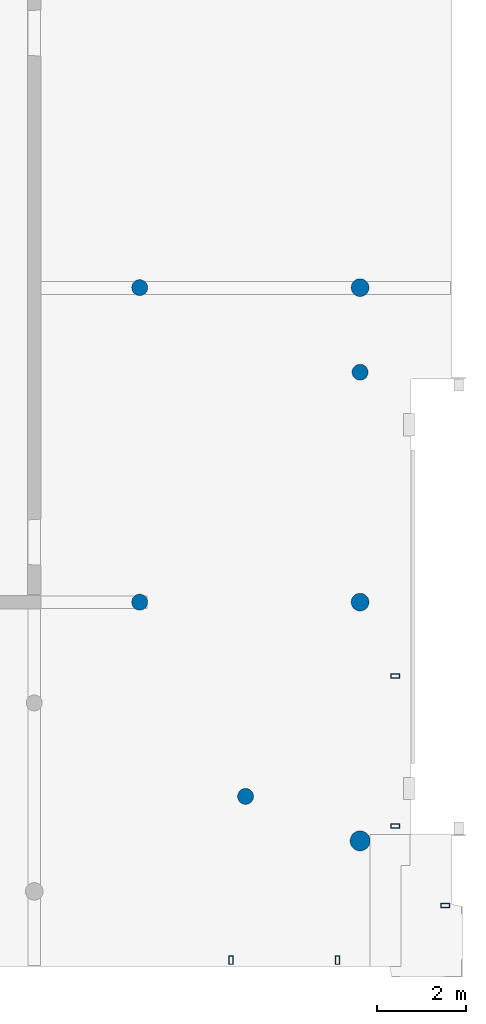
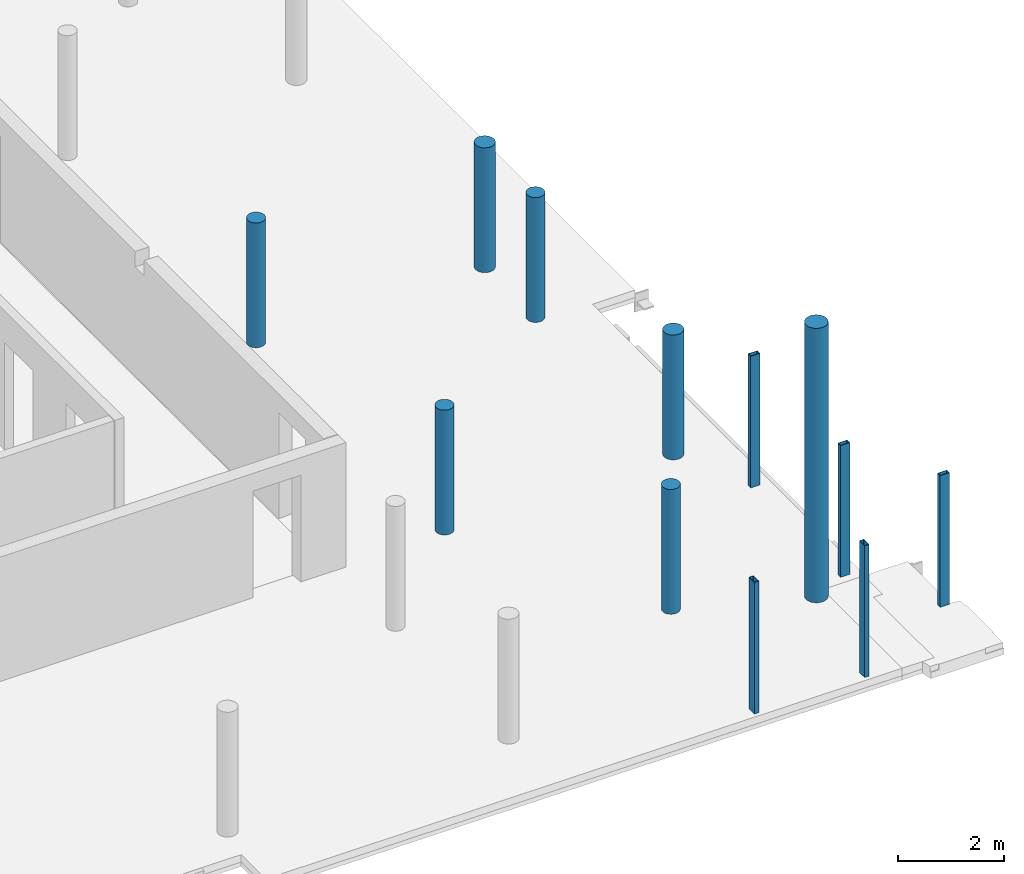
# One storey, part 2 of 7: 12 columns.
"""IFC2X3 building model written with IfcOpenShell, lengths in millimetres."""

from ifc_helpers import new_model, entity, si_unit, converted_unit, derived_unit, direction, frame, frame_2d, origin, origin_2d_with_axis, place, context, subcontext, project, spatial, polyline, circle_curve, parameter, trimmed, segment, composite_curve, circle, outline, extrude, source, transform, mapped, material, type_object, type_shapes, element, save


model = new_model("IFC2X3")

# Units and contexts
model_context = context("Model", 3, precision=0.01, world=origin(), true_north=direction((6.12303176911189e-17, 1.0)))
body_context = subcontext(model_context, "Body", "Model", "MODEL_VIEW")
ifc_project = project(units=[si_unit("LENGTHUNIT", "METRE", prefix="MILLI"), si_unit("AREAUNIT", "SQUARE_METRE"), si_unit("VOLUMEUNIT", "CUBIC_METRE"), converted_unit("PLANEANGLEUNIT", "DEGREE", entity("IfcRatioMeasure", 0.0174532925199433), si_unit("PLANEANGLEUNIT", "RADIAN"), dimensions=[0, 0, 0, 0, 0, 0, 0]), si_unit("MASSUNIT", "GRAM", prefix="KILO"), derived_unit("MASSDENSITYUNIT", [(si_unit("MASSUNIT", "GRAM", prefix="KILO"), 1), (si_unit("LENGTHUNIT", "METRE"), -3)]), si_unit("TIMEUNIT", "SECOND"), si_unit("FREQUENCYUNIT", "HERTZ"), si_unit("THERMODYNAMICTEMPERATUREUNIT", "DEGREE_CELSIUS"), derived_unit("THERMALTRANSMITTANCEUNIT", [(si_unit("MASSUNIT", "GRAM", prefix="KILO"), 1), (si_unit("THERMODYNAMICTEMPERATUREUNIT", "KELVIN"), -1), (si_unit("TIMEUNIT", "SECOND"), -3)]), derived_unit("VOLUMETRICFLOWRATEUNIT", [(si_unit("LENGTHUNIT", "METRE"), 3), (si_unit("TIMEUNIT", "SECOND"), -1)]), si_unit("ELECTRICCURRENTUNIT", "AMPERE"), si_unit("ELECTRICVOLTAGEUNIT", "VOLT"), si_unit("POWERUNIT", "WATT"), si_unit("FORCEUNIT", "NEWTON", prefix="KILO"), si_unit("ILLUMINANCEUNIT", "LUX"), si_unit("LUMINOUSFLUXUNIT", "LUMEN"), si_unit("LUMINOUSINTENSITYUNIT", "CANDELA"), derived_unit("USERDEFINED", [(si_unit("MASSUNIT", "GRAM", prefix="KILO"), -1), (si_unit("LENGTHUNIT", "METRE"), -2), (si_unit("TIMEUNIT", "SECOND"), 3), (si_unit("LUMINOUSFLUXUNIT", "LUMEN"), 1)]), derived_unit("LINEARVELOCITYUNIT", [(si_unit("LENGTHUNIT", "METRE"), 1), (si_unit("TIMEUNIT", "SECOND"), -1)]), si_unit("PRESSUREUNIT", "PASCAL"), derived_unit("USERDEFINED", [(si_unit("LENGTHUNIT", "METRE"), -2), (si_unit("MASSUNIT", "GRAM", prefix="KILO"), 1), (si_unit("TIMEUNIT", "SECOND"), -2)])], contexts=[model_context])

# Site, building, storey
site_placement = place(None, origin())
site = spatial("IfcSite", under=ifc_project, at=site_placement, Name="Default", CompositionType="ELEMENT")
building_placement = place(site_placement, origin())
building = spatial("IfcBuilding", under=site, at=building_placement, Name="niet gebruiken", CompositionType="ELEMENT")
storey_placement = place(building_placement, frame((0.0, 0.0, 165060.0)))
storey = spatial("IfcBuildingStorey", under=building, at=storey_placement, Name="53 drieënvijftigste verdieping", CompositionType="ELEMENT", Elevation=165060.0)

# Columns
ifc_material_1 = material(Name="NLRS_f2_beton prefab")
column_type_1 = type_object("IfcColumnType", Name="ø360", PredefinedType="COLUMN", material=ifc_material_1)
shared_shape_1 = source(origin(), body_context, "Body", "SweptSolid", [
    extrude(circle(Radius=180.0, at=origin_2d_with_axis()), frame((150030.0, 17500.0, 164990.0), z_axis=(0.0, 0.0, 1.0), x_axis=(0.0, -1.0, 0.0)), (0.0, 0.0, 1.0), 2869.99999999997),
])
type_shapes(column_type_1, [shared_shape_1])
column_1_placement = place(storey_placement, frame((0.0, 0.0, -165060.0)))
element("IfcColumn", 1, at=column_1_placement, inside=storey, type_object=column_type_1, material=ifc_material_1, Name="NLRS_28. kolom rond_gen:ø360", ObjectType="ø360", context=body_context, shape_type="MappedRepresentation", body=[
    mapped(shared_shape_1, transform((0.0, 0.0, 0.0), scale=1.0)),
])
column_type_2 = type_object("IfcColumnType", Name="ø400", PredefinedType="COLUMN", material=ifc_material_1)
shared_shape_2 = source(origin(), body_context, "Body", "SweptSolid", [
    extrude(circle(Radius=199.999999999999, at=origin_2d_with_axis()), frame((155005.0, 17500.0, 164990.0), z_axis=(0.0, 0.0, 1.0), x_axis=(0.0, -1.0, 0.0)), (0.0, 0.0, 1.0), 2869.99999999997),
])
type_shapes(column_type_2, [shared_shape_2])
column_2_placement = place(storey_placement, frame((0.0, 0.0, -165060.0)))
element("IfcColumn", 2, at=column_2_placement, inside=storey, type_object=column_type_2, material=ifc_material_1, Name="NLRS_28. kolom rond_gen:ø400", ObjectType="ø400", context=body_context, shape_type="MappedRepresentation", body=[
    mapped(shared_shape_2, transform((0.0, 0.0, 0.0), scale=1.0)),
])
column_type_3 = type_object("IfcColumnType", Name="ø360", PredefinedType="COLUMN", material=ifc_material_1)
shared_shape_3 = source(origin(), body_context, "Body", "SweptSolid", [
    extrude(circle(Radius=180.0, at=origin_2d_with_axis()), frame((155005.0, 15590.0, 164990.0), z_axis=(0.0, 0.0, 1.0), x_axis=(0.0, -1.0, 0.0)), (0.0, 0.0, 1.0), 2869.99999999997),
])
type_shapes(column_type_3, [shared_shape_3])
column_3_placement = place(storey_placement, frame((0.0, 0.0, -165060.0)))
element("IfcColumn", 3, at=column_3_placement, inside=storey, type_object=column_type_3, material=ifc_material_1, Name="NLRS_28. kolom rond_gen:ø360", ObjectType="ø360", context=body_context, shape_type="MappedRepresentation", body=[
    mapped(shared_shape_3, transform((0.0, 0.0, 0.0), scale=1.0)),
])
column_type_4 = type_object("IfcColumnType", Name="ø400", PredefinedType="COLUMN", material=ifc_material_1)
shared_shape_4 = source(origin(), body_context, "Body", "SweptSolid", [
    extrude(circle(Radius=199.999999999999, at=origin_2d_with_axis()), frame((155005.0, 10400.0, 164990.0), z_axis=(0.0, 0.0, 1.0), x_axis=(0.0, -1.0, 0.0)), (0.0, 0.0, 1.0), 2869.99999999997),
])
type_shapes(column_type_4, [shared_shape_4])
column_4_placement = place(storey_placement, frame((0.0, 0.0, -165060.0)))
element("IfcColumn", 4, at=column_4_placement, inside=storey, type_object=column_type_4, material=ifc_material_1, Name="NLRS_28. kolom rond_gen:ø400", ObjectType="ø400", context=body_context, shape_type="MappedRepresentation", body=[
    mapped(shared_shape_4, transform((0.0, 0.0, 0.0), scale=1.0)),
])
column_type_5 = type_object("IfcColumnType", Name="ø360", PredefinedType="COLUMN", material=ifc_material_1)
shared_shape_5 = source(origin(), body_context, "Body", "SweptSolid", [
    extrude(circle(Radius=180.0, at=origin_2d_with_axis()), frame((150030.0, 10400.0, 164990.0), z_axis=(0.0, 0.0, 1.0), x_axis=(0.0, -1.0, 0.0)), (0.0, 0.0, 1.0), 2869.99999999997),
])
type_shapes(column_type_5, [shared_shape_5])
column_5_placement = place(storey_placement, frame((0.0, 0.0, -165060.0)))
element("IfcColumn", 5, at=column_5_placement, inside=storey, type_object=column_type_5, material=ifc_material_1, Name="NLRS_28. kolom rond_gen:ø360", ObjectType="ø360", context=body_context, shape_type="MappedRepresentation", body=[
    mapped(shared_shape_5, transform((0.0, 0.0, 0.0), scale=1.0)),
])
column_type_6 = type_object("IfcColumnType", Name="ø360", PredefinedType="COLUMN", material=ifc_material_1)
shared_shape_6 = source(origin(), body_context, "Body", "SweptSolid", [
    extrude(circle(Radius=180.0, at=origin_2d_with_axis()), frame((152420.0, 6015.0, 164990.0), z_axis=(0.0, 0.0, 1.0), x_axis=(0.0, -1.0, 0.0)), (0.0, 0.0, 1.0), 2869.99999999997),
])
type_shapes(column_type_6, [shared_shape_6])
column_6_placement = place(storey_placement, frame((0.0, 0.0, -165060.0)))
element("IfcColumn", 6, at=column_6_placement, inside=storey, type_object=column_type_6, material=ifc_material_1, Name="NLRS_28. kolom rond_gen:ø360", ObjectType="ø360", context=body_context, shape_type="MappedRepresentation", body=[
    mapped(shared_shape_6, transform((0.0, 0.0, 0.0), scale=1.0)),
])
column_type_7 = type_object("IfcColumnType", Name="ø450", PredefinedType="COLUMN", material=ifc_material_1)
shared_shape_7 = source(origin(), body_context, "Body", "SweptSolid", [
    extrude(circle(Radius=224.999999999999, at=origin_2d_with_axis()), frame((155005.0, 5010.0, 164990.0), z_axis=(0.0, 0.0, 1.0), x_axis=(0.0, -1.0, 0.0)), (0.0, 0.0, 1.0), 6309.99999999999),
])
type_shapes(column_type_7, [shared_shape_7])
column_7_placement = place(storey_placement, frame((0.0, 0.0, -165060.0)))
element("IfcColumn", 7, at=column_7_placement, inside=storey, type_object=column_type_7, material=ifc_material_1, Name="NLRS_28. kolom rond_gen:ø450", ObjectType="ø450", context=body_context, shape_type="MappedRepresentation", body=[
    mapped(shared_shape_7, transform((0.0, 0.0, 0.0), scale=1.0)),
])
ifc_material_2 = material(Name="NLRS_h2_staal")
column_type_8 = type_object("IfcColumnType", Name="kolom buisprofiel rechthoekig RHSH_200x100x10", PredefinedType="COLUMN", material=ifc_material_2)
shared_shape_8 = source(origin(), body_context, "Body", "SweptSolid", [
    extrude(outline(polyline([(-100.0, -50.0), (100.0, -50.0), (100.0, 50.0), (-100.0, 50.0), (-100.0, -50.0)]), holes=[composite_curve([segment(trimmed(circle_curve(frame_2d((-80.0, -30.0), x_axis=(0.0, 1.0)), 10.0), [parameter(90.0000000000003)], [parameter(180.0)], True, "PARAMETER"), False, "CONTINUOUS"), segment(polyline([(-90.0, -30.0), (-90.0, 30.0)]), True, "CONTINUOUS"), segment(trimmed(circle_curve(frame_2d((-80.0, 30.0), x_axis=(0.0, 1.0)), 10.0), [parameter(360.0)], [parameter(89.9999999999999)], True, "PARAMETER"), False, "CONTINUOUS"), segment(polyline([(-80.0, 40.0), (80.0, 40.0)]), True, "CONTINUOUS"), segment(trimmed(circle_curve(frame_2d((80.0, 30.0), x_axis=(0.0, 1.0)), 10.0), [parameter(270.0)], [parameter(360.0)], True, "PARAMETER"), False, "CONTINUOUS"), segment(polyline([(90.0, 30.0), (90.0, -30.0)]), True, "CONTINUOUS"), segment(trimmed(circle_curve(frame_2d((80.0, -30.0), x_axis=(0.0, 1.0)), 10.0), [parameter(180.0)], [parameter(270.0)], True, "PARAMETER"), False, "CONTINUOUS"), segment(polyline([(80.0, -40.0), (-80.0, -40.0)]), True, "CONTINUOUS")], self_intersect=False)]), frame((156930.0, 3555.0, 165000.0)), (0.0, 0.0, 1.0), 3029.69999999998),
])
type_shapes(column_type_8, [shared_shape_8])
column_8_placement = place(storey_placement, frame((0.0, 0.0, -165060.0)))
element("IfcColumn", 8, at=column_8_placement, inside=storey, type_object=column_type_8, material=ifc_material_2, Name="NLRS_28.11_SCO_TLB_stalen kolom buisprofiel rechthoekig_gen:kolom buisprofiel rechthoekig RHSH_200x100x10", ObjectType="kolom buisprofiel rechthoekig RHSH_200x100x10", context=body_context, shape_type="MappedRepresentation", body=[
    mapped(shared_shape_8, transform((0.0, 0.0, 0.0), scale=1.0)),
])
column_type_9 = type_object("IfcColumnType", Name="kolom buisprofiel rechthoekig RHSH_200x100x10", PredefinedType="COLUMN", material=ifc_material_2)
shared_shape_9 = source(origin(), body_context, "Body", "SweptSolid", [
    extrude(outline(polyline([(-100.0, -50.0), (100.0, -50.0), (100.0, 50.0), (-100.0, 50.0), (-100.0, -50.0)]), holes=[composite_curve([segment(trimmed(circle_curve(frame_2d((-80.0, -30.0), x_axis=(0.0, 1.0)), 10.0), [parameter(90.0000000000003)], [parameter(180.0)], True, "PARAMETER"), False, "CONTINUOUS"), segment(polyline([(-90.0, -30.0), (-90.0, 30.0)]), True, "CONTINUOUS"), segment(trimmed(circle_curve(frame_2d((-80.0, 30.0), x_axis=(0.0, 1.0)), 10.0), [parameter(360.0)], [parameter(89.9999999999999)], True, "PARAMETER"), False, "CONTINUOUS"), segment(polyline([(-80.0, 40.0), (80.0, 40.0)]), True, "CONTINUOUS"), segment(trimmed(circle_curve(frame_2d((80.0, 30.0), x_axis=(0.0, 1.0)), 10.0), [parameter(270.0)], [parameter(360.0)], True, "PARAMETER"), False, "CONTINUOUS"), segment(polyline([(90.0, 30.0), (90.0, -30.0)]), True, "CONTINUOUS"), segment(trimmed(circle_curve(frame_2d((80.0, -30.0), x_axis=(0.0, 1.0)), 10.0), [parameter(180.0)], [parameter(270.0)], True, "PARAMETER"), False, "CONTINUOUS"), segment(polyline([(80.0, -40.0), (-80.0, -40.0)]), True, "CONTINUOUS")], self_intersect=False)]), frame((154495.0, 2320.0, 165000.0), z_axis=(0.0, 0.0, 1.0), x_axis=(0.0, -1.0, 0.0)), (0.0, 0.0, 1.0), 3029.69999999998),
])
type_shapes(column_type_9, [shared_shape_9])
column_9_placement = place(storey_placement, frame((0.0, 0.0, -165060.0)))
element("IfcColumn", 9, at=column_9_placement, inside=storey, type_object=column_type_9, material=ifc_material_2, Name="NLRS_28.11_SCO_TLB_stalen kolom buisprofiel rechthoekig_gen:kolom buisprofiel rechthoekig RHSH_200x100x10", ObjectType="kolom buisprofiel rechthoekig RHSH_200x100x10", context=body_context, shape_type="MappedRepresentation", body=[
    mapped(shared_shape_9, transform((0.0, 0.0, 0.0), scale=1.0)),
])
column_type_10 = type_object("IfcColumnType", Name="kolom buisprofiel rechthoekig RHSH_200x100x10", PredefinedType="COLUMN", material=ifc_material_2)
shared_shape_10 = source(origin(), body_context, "Body", "SweptSolid", [
    extrude(outline(polyline([(-100.0, -50.0), (100.0, -50.0), (100.0, 50.0), (-100.0, 50.0), (-100.0, -50.0)]), holes=[composite_curve([segment(trimmed(circle_curve(frame_2d((-80.0, -30.0), x_axis=(0.0, 1.0)), 10.0), [parameter(90.0000000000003)], [parameter(180.0)], True, "PARAMETER"), False, "CONTINUOUS"), segment(polyline([(-90.0, -30.0), (-90.0, 30.0)]), True, "CONTINUOUS"), segment(trimmed(circle_curve(frame_2d((-80.0, 30.0), x_axis=(0.0, 1.0)), 10.0), [parameter(360.0)], [parameter(89.9999999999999)], True, "PARAMETER"), False, "CONTINUOUS"), segment(polyline([(-80.0, 40.0), (80.0, 40.0)]), True, "CONTINUOUS"), segment(trimmed(circle_curve(frame_2d((80.0, 30.0), x_axis=(0.0, 1.0)), 10.0), [parameter(270.0)], [parameter(360.0)], True, "PARAMETER"), False, "CONTINUOUS"), segment(polyline([(90.0, 30.0), (90.0, -30.0)]), True, "CONTINUOUS"), segment(trimmed(circle_curve(frame_2d((80.0, -30.0), x_axis=(0.0, 1.0)), 10.0), [parameter(180.0)], [parameter(270.0)], True, "PARAMETER"), False, "CONTINUOUS"), segment(polyline([(80.0, -40.0), (-80.0, -40.0)]), True, "CONTINUOUS")], self_intersect=False)]), frame((152095.0, 2320.0, 165000.0), z_axis=(0.0, 0.0, 1.0), x_axis=(0.0, -1.0, 0.0)), (0.0, 0.0, 1.0), 3029.69999999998),
])
type_shapes(column_type_10, [shared_shape_10])
column_10_placement = place(storey_placement, frame((0.0, 0.0, -165060.0)))
element("IfcColumn", 10, at=column_10_placement, inside=storey, type_object=column_type_10, material=ifc_material_2, Name="NLRS_28.11_SCO_TLB_stalen kolom buisprofiel rechthoekig_gen:kolom buisprofiel rechthoekig RHSH_200x100x10", ObjectType="kolom buisprofiel rechthoekig RHSH_200x100x10", context=body_context, shape_type="MappedRepresentation", body=[
    mapped(shared_shape_10, transform((0.0, 0.0, 0.0), scale=1.0)),
])
column_type_11 = type_object("IfcColumnType", Name="kolom buisprofiel rechthoekig RHSH_200x100x10", PredefinedType="COLUMN", material=ifc_material_2)
shared_shape_11 = source(origin(), body_context, "Body", "SweptSolid", [
    extrude(outline(polyline([(-100.0, -50.0), (100.0, -50.0), (100.0, 50.0), (-100.0, 50.0), (-100.0, -50.0)]), holes=[composite_curve([segment(trimmed(circle_curve(frame_2d((-80.0, -30.0), x_axis=(0.0, 1.0)), 10.0), [parameter(90.0000000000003)], [parameter(180.0)], True, "PARAMETER"), False, "CONTINUOUS"), segment(polyline([(-90.0, -30.0), (-90.0, 30.0)]), True, "CONTINUOUS"), segment(trimmed(circle_curve(frame_2d((-80.0, 30.0), x_axis=(0.0, 1.0)), 10.0), [parameter(360.0)], [parameter(89.9999999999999)], True, "PARAMETER"), False, "CONTINUOUS"), segment(polyline([(-80.0, 40.0), (80.0, 40.0)]), True, "CONTINUOUS"), segment(trimmed(circle_curve(frame_2d((80.0, 30.0), x_axis=(0.0, 1.0)), 10.0), [parameter(270.0)], [parameter(360.0)], True, "PARAMETER"), False, "CONTINUOUS"), segment(polyline([(90.0, 30.0), (90.0, -30.0)]), True, "CONTINUOUS"), segment(trimmed(circle_curve(frame_2d((80.0, -30.0), x_axis=(0.0, 1.0)), 10.0), [parameter(180.0)], [parameter(270.0)], True, "PARAMETER"), False, "CONTINUOUS"), segment(polyline([(80.0, -40.0), (-80.0, -40.0)]), True, "CONTINUOUS")], self_intersect=False)]), frame((155799.0, 8735.0, 165000.0)), (0.0, 0.0, 1.0), 3029.69999999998),
])
type_shapes(column_type_11, [shared_shape_11])
column_11_placement = place(storey_placement, frame((0.0, 0.0, -165060.0)))
element("IfcColumn", 11, at=column_11_placement, inside=storey, type_object=column_type_11, material=ifc_material_2, Name="NLRS_28.11_SCO_TLB_stalen kolom buisprofiel rechthoekig_gen:kolom buisprofiel rechthoekig RHSH_200x100x10", ObjectType="kolom buisprofiel rechthoekig RHSH_200x100x10", context=body_context, shape_type="MappedRepresentation", body=[
    mapped(shared_shape_11, transform((0.0, 0.0, 0.0), scale=1.0)),
])
column_type_12 = type_object("IfcColumnType", Name="kolom buisprofiel rechthoekig RHSH_200x100x10", PredefinedType="COLUMN", material=ifc_material_2)
shared_shape_12 = source(origin(), body_context, "Body", "SweptSolid", [
    extrude(outline(polyline([(-100.0, -50.0), (100.0, -50.0), (100.0, 50.0), (-100.0, 50.0), (-100.0, -50.0)]), holes=[composite_curve([segment(trimmed(circle_curve(frame_2d((-80.0, -30.0), x_axis=(0.0, 1.0)), 10.0), [parameter(90.0000000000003)], [parameter(180.0)], True, "PARAMETER"), False, "CONTINUOUS"), segment(polyline([(-90.0, -30.0), (-90.0, 30.0)]), True, "CONTINUOUS"), segment(trimmed(circle_curve(frame_2d((-80.0, 30.0), x_axis=(0.0, 1.0)), 10.0), [parameter(360.0)], [parameter(89.9999999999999)], True, "PARAMETER"), False, "CONTINUOUS"), segment(polyline([(-80.0, 40.0), (80.0, 40.0)]), True, "CONTINUOUS"), segment(trimmed(circle_curve(frame_2d((80.0, 30.0), x_axis=(0.0, 1.0)), 10.0), [parameter(270.0)], [parameter(360.0)], True, "PARAMETER"), False, "CONTINUOUS"), segment(polyline([(90.0, 30.0), (90.0, -30.0)]), True, "CONTINUOUS"), segment(trimmed(circle_curve(frame_2d((80.0, -30.0), x_axis=(0.0, 1.0)), 10.0), [parameter(180.0)], [parameter(270.0)], True, "PARAMETER"), False, "CONTINUOUS"), segment(polyline([(80.0, -40.0), (-80.0, -40.0)]), True, "CONTINUOUS")], self_intersect=False)]), frame((155799.0, 5348.0, 165000.0)), (0.0, 0.0, 1.0), 3029.69999999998),
])
type_shapes(column_type_12, [shared_shape_12])
column_12_placement = place(storey_placement, frame((0.0, 0.0, -165060.0)))
element("IfcColumn", 12, at=column_12_placement, inside=storey, type_object=column_type_12, material=ifc_material_2, Name="NLRS_28.11_SCO_TLB_stalen kolom buisprofiel rechthoekig_gen:kolom buisprofiel rechthoekig RHSH_200x100x10", ObjectType="kolom buisprofiel rechthoekig RHSH_200x100x10", context=body_context, shape_type="MappedRepresentation", body=[
    mapped(shared_shape_12, transform((0.0, 0.0, 0.0), scale=1.0)),
])

save(model, "model.ifc")
